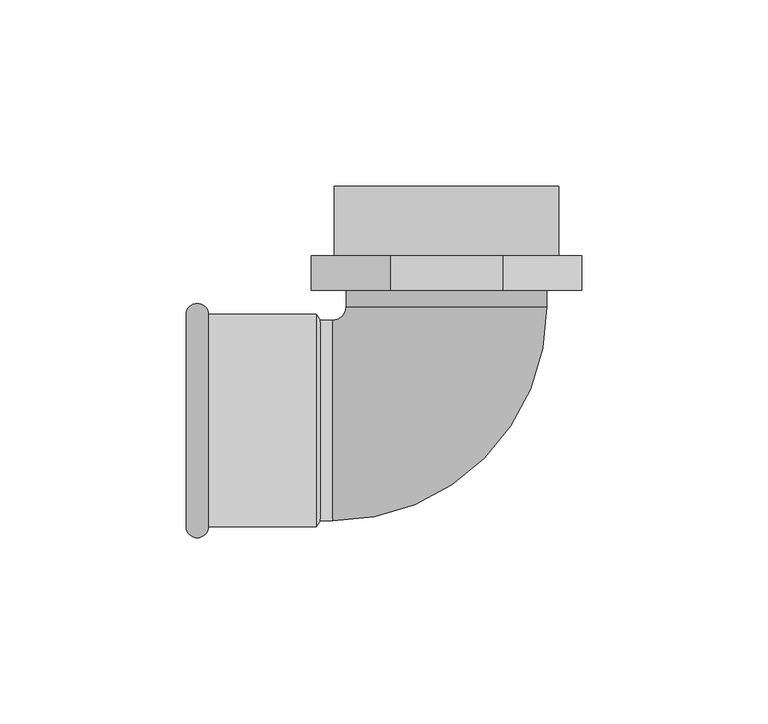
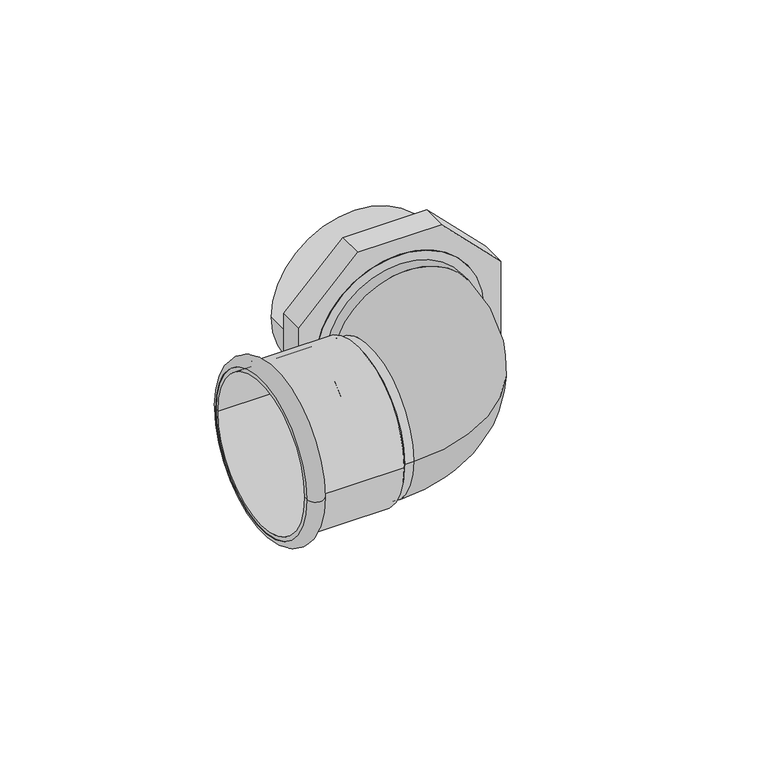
"""IFC4 building model written with IfcOpenShell, lengths in millimetres: pipe fitting geometry."""

from ifc_helpers import new_model, si_unit, point, frame, origin, origin_2d, place, context, project, spatial, polyline, circle_curve, ellipse_curve, trimmed, segment, composite_curve, outline, extrude, source, transform, mapped, element, save
from ifc_brep_helpers import plane_surface, cylinder_surface, revolved_surface, advanced_brep


def pipe_fitting_71529f2a(model_context):
    return source(origin(), model_context, "Body", "SolidModel", [
        advanced_brep(
        [(-70.0, 28.5, 0.0), (-70.0, -28.5, 0.0), (-63.9987073, -28.5, 0.0), (-63.9987073, 28.5, 0.0)],
        [
            (0, 1, circle_curve(frame((-70.0, 0.0, 0.0), z_axis=(-1.0, 0.0, 0.0), x_axis=(0.0, -1.0000000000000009, 0.0)), 28.5)),
            (1, 2),
            (2, 3, circle_curve(frame((-63.9987073, 0.0, 0.0), z_axis=(1.0, 0.0, 0.0), x_axis=(0.0, -1.0000000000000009, 0.0)), 28.5)),
            (3, 0),
            (1, 0, circle_curve(frame((-70.0, 0.0, 0.0), z_axis=(-1.0, 0.0, 0.0), x_axis=(0.0, -1.0000000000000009, 0.0)), 28.5)),
            (3, 2, circle_curve(frame((-63.9987073, 0.0, 0.0), z_axis=(1.0, 0.0, 0.0), x_axis=(0.0, -1.0000000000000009, 0.0)), 28.5)),
            (2, 1, circle_curve(frame((-66.9993536, -28.5, 0.0), z_axis=(0.0, 0.0, -1.0000000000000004), x_axis=(-1.0000000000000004, 0.0, 0.0)), 3.0006464)),
            (0, 3, circle_curve(frame((-66.9993536, 28.5, 0.0), z_axis=(0.0, 0.0, -1.0000000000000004), x_axis=(-1.0000000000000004, 0.0, 0.0)), 3.0006464)),
        ],
        [
            revolved_surface(polyline([(-63.99870730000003, -28.500000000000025, 0.0), (-70.00000000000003, -28.500000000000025, 0.0)]), (-35.0, 0.0, 0.0), (1.0000000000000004, 0.0, 0.0)),
            revolved_surface(trimmed(ellipse_curve(frame((-66.9993536, -28.5, 0.0), z_axis=(0.0, 0.0, 1.0000000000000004), x_axis=(-1.0000000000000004, 0.0, 0.0)), 3.0006464, 3.0006464), [point((-70.0, -28.5, 0.0))], [point((-63.9987073, -28.5, 0.0))], True, "CARTESIAN"), (-35.0, 0.0, 0.0), (1.0000000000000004, 0.0, 0.0)),
        ],
        [
            (0, [[1, 2, 3, 4]]),
            (0, [[5, -4, 6, -2]]),
            (1, [[-3, 7, -1, 8]]),
            (1, [[-6, -8, -5, -7]]),
        ],
    ),
        advanced_brep(
        [(-70.0, 27.0, 0.0), (-70.0, -27.0, 0.0), (-34.0, -27.0, 0.0), (-34.0, 27.0, 0.0), (-70.0, 28.5, 0.0), (-70.0, -28.5, 0.0), (-35.0, 28.5, 0.0), (-35.0, -28.5, 0.0)],
        [
            (0, 1, circle_curve(frame((-70.0, 0.0, 0.0), z_axis=(-1.0, 0.0, 0.0), x_axis=(0.0, -1.0000000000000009, 0.0)), 27.0)),
            (1, 2),
            (2, 3, circle_curve(frame((-34.0, 0.0, 0.0), z_axis=(1.0, 0.0, 0.0), x_axis=(0.0, -1.0000000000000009, 0.0)), 27.0)),
            (3, 0),
            (1, 0, circle_curve(frame((-70.0, 0.0, 0.0), z_axis=(-1.0, 0.0, 0.0), x_axis=(0.0, -1.0000000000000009, 0.0)), 27.0)),
            (3, 2, circle_curve(frame((-34.0, 0.0, 0.0), z_axis=(1.0, 0.0, 0.0), x_axis=(0.0, -1.0000000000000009, 0.0)), 27.0)),
            (4, 5, circle_curve(frame((-70.0, 0.0, 0.0), z_axis=(-1.0, 0.0, 0.0), x_axis=(0.0, -1.0000000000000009, 0.0)), 28.5)),
            (5, 1),
            (0, 4),
            (5, 4, circle_curve(frame((-70.0, 0.0, 0.0), z_axis=(-1.0, 0.0, 0.0), x_axis=(0.0, -1.0000000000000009, 0.0)), 28.5)),
            (6, 7, circle_curve(frame((-35.0, 0.0, 0.0), z_axis=(-1.0, 0.0, 0.0), x_axis=(0.0, -1.0000000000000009, 0.0)), 28.5)),
            (7, 5),
            (4, 6),
            (7, 6, circle_curve(frame((-35.0, 0.0, 0.0), z_axis=(-1.0, 0.0, 0.0), x_axis=(0.0, -1.0000000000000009, 0.0)), 28.5)),
            (2, 7),
            (6, 3),
        ],
        [
            revolved_surface(polyline([(-34.0, -27.000000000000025, 0.0), (-70.00000000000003, -27.000000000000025, 0.0)]), (-35.0, 0.0, 0.0), (1.0000000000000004, 0.0, 0.0)),
            plane_surface(frame((-70.0, 0.0, 0.0), z_axis=(-1.0, 0.0, 0.0), x_axis=(0.0, -1.0, 0.0))),
            cylinder_surface(frame((-35.0, 0.0, 0.0), z_axis=(1.0000000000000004, 0.0, 0.0), x_axis=(0.0, -1.0000000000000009, 0.0)), 28.5),
            revolved_surface(polyline([(-35.0, -28.5, 0.0), (-34.0, -27.0, 0.0)]), (-35.0, 0.0, 0.0), (1.0000000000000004, 0.0, 0.0)),
        ],
        [
            (0, [[1, 2, 3, 4]]),
            (0, [[5, -4, 6, -2]]),
            (1, [[7, 8, -1, 9]]),
            (1, [[10, -9, -5, -8]]),
            (2, [[11, 12, -7, 13]]),
            (2, [[14, -13, -10, -12]]),
            (3, [[-3, 15, -11, 16]]),
            (3, [[-6, -16, -14, -15]]),
        ],
    ),
        extrude(outline(composite_curve([segment(trimmed(circle_curve(origin_2d(), 30.15), [point((0.0, 30.15))], [point((0.0, -30.15))], False, "CARTESIAN"), True, "CONTINUOUS"), segment(trimmed(circle_curve(origin_2d(), 30.15), [point((0.0, -30.15))], [point((0.0, 30.15))], False, "CARTESIAN"), True, "CONTINUOUS")], self_intersect=False)), frame((0.0, 35.0, 0.0), z_axis=(0.0, 1.0, 0.0), x_axis=(0.0, 0.0, 1.0)), (0.0, 0.0, 1.0), 28.0),
        extrude(outline(polyline([(15.075, -36.3942695), (-15.075, -36.3942695), (-36.3942695, -15.075), (-36.3942695, 15.075), (-15.075, 36.3942695), (15.075, 36.3942695), (36.3942695, 15.075), (36.3942695, -15.075), (15.075, -36.3942695)]), holes=[composite_curve([segment(trimmed(circle_curve(origin_2d(), 30.15), [point((0.0, 30.15))], [point((0.0, -30.15))], True, "CARTESIAN"), True, "CONTINUOUS"), segment(trimmed(circle_curve(origin_2d(), 30.15), [point((0.0, -30.15))], [point((0.0, 30.15))], True, "CARTESIAN"), True, "CONTINUOUS")], self_intersect=False)]), frame((0.0, 35.0, 0.0), z_axis=(0.0, 1.0, 0.0), x_axis=(0.0, 0.0, 1.0)), (0.0, 0.0, 1.0), 9.3333333),
        advanced_brep(
        [(-27.0, 35.0, 0.0), (27.0, 35.0, 0.0), (-27.0, 30.6, 0.0), (27.0, 30.6, 0.0), (-30.6, -27.0, 0.0), (-30.6, 27.0, 0.0), (-35.0, 27.0, 0.0), (-35.0, -27.0, 0.0)],
        [
            (0, 1, circle_curve(frame((0.0, 35.0, 0.0), z_axis=(0.0, 1.0, 0.0), x_axis=(1.0, 0.0, 0.0)), 27.0)),
            (1, 0, circle_curve(frame((0.0, 35.0, 0.0), z_axis=(0.0, 1.0, 0.0), x_axis=(1.0, 0.0, 0.0)), 27.0)),
            (0, 2),
            (2, 3, circle_curve(frame((0.0, 30.6, 0.0), z_axis=(0.0, 1.0, 0.0), x_axis=(1.0, 0.0, 0.0)), 27.0)),
            (3, 1),
            (3, 2, circle_curve(frame((0.0, 30.6, 0.0), z_axis=(0.0, 1.0, 0.0), x_axis=(1.0, 0.0, 0.0)), 27.0)),
            (4, 3, circle_curve(frame((-30.6, 30.6, 0.0), z_axis=(0.0, 0.0, 1.0), x_axis=(1.0, 0.0, 0.0)), 57.6)),
            (2, 5, circle_curve(frame((-30.6, 30.6, 0.0), z_axis=(0.0, 0.0, -1.0), x_axis=(1.0, 0.0, 0.0)), 3.6)),
            (5, 4, circle_curve(frame((-30.6, 0.0, 0.0), z_axis=(1.0, 0.0, 0.0), x_axis=(0.0, -1.0, 0.0)), 27.0)),
            (4, 5, circle_curve(frame((-30.6, 0.0, 0.0), z_axis=(1.0, 0.0, 0.0), x_axis=(0.0, -1.0, 0.0)), 27.0)),
            (6, 7, circle_curve(frame((-35.0, 0.0, 0.0), z_axis=(-1.0, 0.0, 0.0), x_axis=(0.0, -1.0, 0.0)), 27.0)),
            (7, 6, circle_curve(frame((-35.0, 0.0, 0.0), z_axis=(-1.0, 0.0, 0.0), x_axis=(0.0, -1.0, 0.0)), 27.0)),
            (5, 6),
            (7, 4),
        ],
        [
            plane_surface(frame((0.0, 35.0, 0.0), z_axis=(0.0, 1.0, 0.0), x_axis=(0.0, 0.0, 1.0))),
            cylinder_surface(frame((0.0, 35.0, 0.0), z_axis=(0.0, 1.0, 0.0), x_axis=(1.0, 0.0, 0.0)), 27.0),
            revolved_surface(trimmed(ellipse_curve(frame((0.0, 30.6, 0.0), z_axis=(0.0, 1.0, 0.0), x_axis=(1.0, 0.0, 0.0)), 27.0, 27.0), [point((-27.0, 30.6, 0.0))], [point((27.0, 30.6, 0.0))], True, "CARTESIAN"), (-30.6, 30.6, 0.0), (0.0, 0.0, -1.0)),
            revolved_surface(trimmed(ellipse_curve(frame((0.0, 30.6, 0.0), z_axis=(0.0, 1.0, 0.0), x_axis=(1.0, 0.0, 0.0)), 27.0, 27.0), [point((27.0, 30.6, 0.0))], [point((-27.0, 30.6, 0.0))], True, "CARTESIAN"), (-30.6, 30.6, 0.0), (0.0, 0.0, -1.0)),
            plane_surface(frame((-35.0, 0.0, 0.0), z_axis=(-1.0, 0.0, 0.0), x_axis=(0.0, 0.0, 1.0))),
            cylinder_surface(frame((-30.6, 0.0, 0.0), z_axis=(1.0, 0.0, 0.0), x_axis=(0.0, -1.0, 0.0)), 27.0),
        ],
        [
            (0, [[1, 2]]),
            (1, [[-1, 3, 4, 5]]),
            (1, [[-2, -5, 6, -3]]),
            (2, [[7, -4, 8, 9]]),
            (3, [[-8, -6, -7, 10]]),
            (4, [[11, 12]]),
            (5, [[-9, 13, -12, 14]]),
            (5, [[-10, -14, -11, -13]]),
        ],
    ),
    ])


if __name__ == "__main__":
    model = new_model("IFC4")
    model_context = context("Model", 3, world=origin())
    ifc_project = project(units=[si_unit("LENGTHUNIT", "METRE", prefix="MILLI")], contexts=[model_context])
    site = spatial("IfcSite", under=ifc_project)
    building = spatial("IfcBuilding", under=site)
    placement = place(None, origin())
    pipe_fitting_shape = pipe_fitting_71529f2a(model_context)
    element("IfcPipeFitting", 1, ObjectType="NLRS_50_PIF_UN_Mapress koper overgangsknie 90° met buitendraad_geb : DN10-50-R2\" / d12-54-R2\"", at=placement, inside=building, context=model_context, shape_type="MappedRepresentation", body=[
        mapped(pipe_fitting_shape, transform((0.0, 0.0, 0.0), x_axis=(1.0, 0.0, 0.0), y_axis=(0.0, 1.0, 0.0), z_axis=(0.0, 0.0, 1.0))),
    ])
    save(model, "model.ifc")
